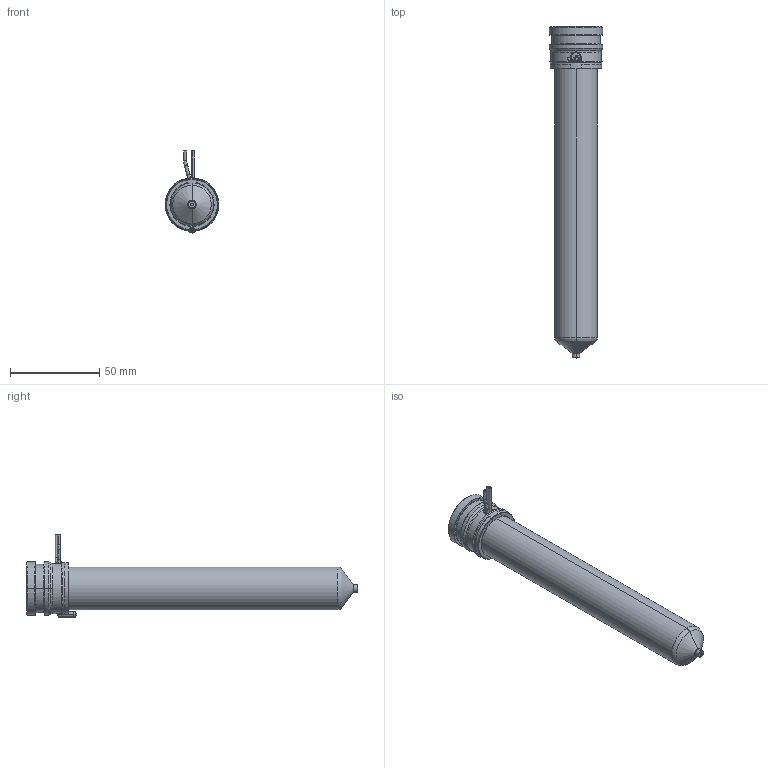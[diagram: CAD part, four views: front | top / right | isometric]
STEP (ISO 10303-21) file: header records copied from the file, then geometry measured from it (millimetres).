
FILE_DESCRIPTION((''),'2;1');
FILE_NAME('MPN-10-29-VP4-166-A','2026-02-05T12:43:21',('UPTIO'),('Thermoplay S.p.A.'),'CREO PARAMETRIC BY PTC INC, 2023494','CREO PARAMETRIC BY PTC INC, 2023494','');
FILE_SCHEMA(('CONFIG_CONTROL_DESIGN','SHAPE_APPEARANCE_LAYERS_GROUPS'));
Length unit declared in the file: millimetre
Products named in the file (1): MPN-10-29-VP4-166-A
Bounding box: 30 x 186.1 x 46 mm (x, y, z)
Volume: 57893.2 mm3; surface area: 58779.1 mm2
Topology: 2 solids, 3 shells, 580 faces, 1542 edges, 960 vertices
Faces by surface type: cylinder 180, plane 153, bspline 98, torus 70, cone 68, sphere 7, extrusion 4
Entity records: 32876 total; most frequent: CARTESIAN_POINT 15967, ORIENTED_EDGE 3072, DIRECTION 2691, EDGE_CURVE 1536, AXIS2_PLACEMENT_3D 1063, VERTEX_POINT 960, EDGE_LOOP 608, CIRCLE 584
